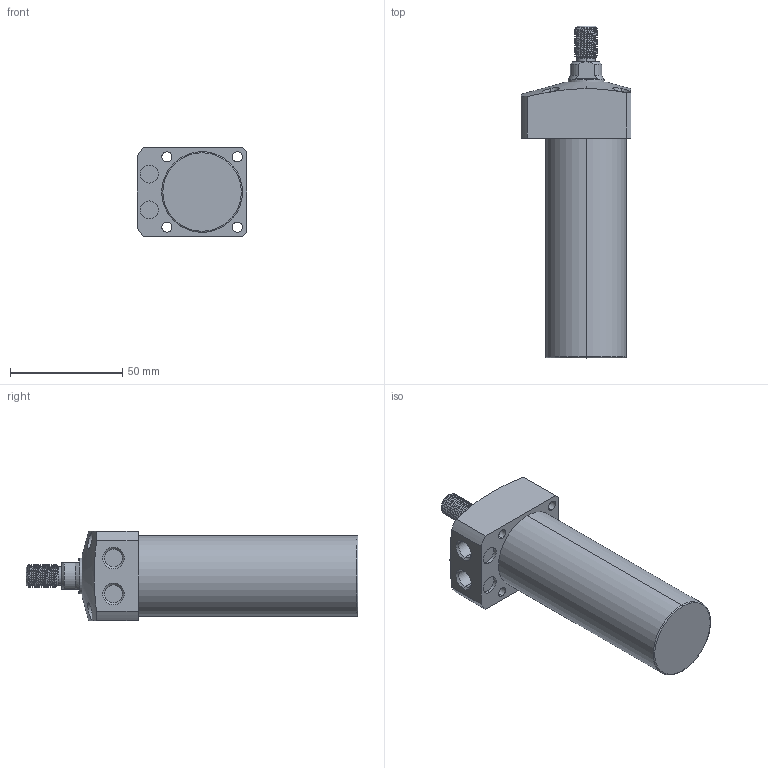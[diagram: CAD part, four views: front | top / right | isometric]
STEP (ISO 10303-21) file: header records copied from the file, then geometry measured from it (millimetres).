
FILE_DESCRIPTION (( 'STEP AP203' ), '1' );
FILE_NAME ('CLL-036CT-075.STEP', '2020-01-08T08:49:04', ( '' ), ( '' ), 'SwSTEP 2.0', 'SolidWorks 2015', '' );
FILE_SCHEMA (( 'CONFIG_CONTROL_DESIGN' ));
Length unit declared in the file: millimetre
Products named in the file (1): CLL-036CT-075
Bounding box: 49 x 148 x 40 mm (x, y, z)
Volume: 142646.3 mm3; surface area: 21751 mm2
Topology: 1 solids, 1 shells, 104 faces, 259 edges, 168 vertices
Faces by surface type: cylinder 61, plane 23, cone 16, torus 2, bspline 2
Entity records: 5043 total; most frequent: CARTESIAN_POINT 2624, ORIENTED_EDGE 518, DIRECTION 460, EDGE_CURVE 259, AXIS2_PLACEMENT_3D 185, VERTEX_POINT 168, EDGE_LOOP 123, ADVANCED_FACE 104
